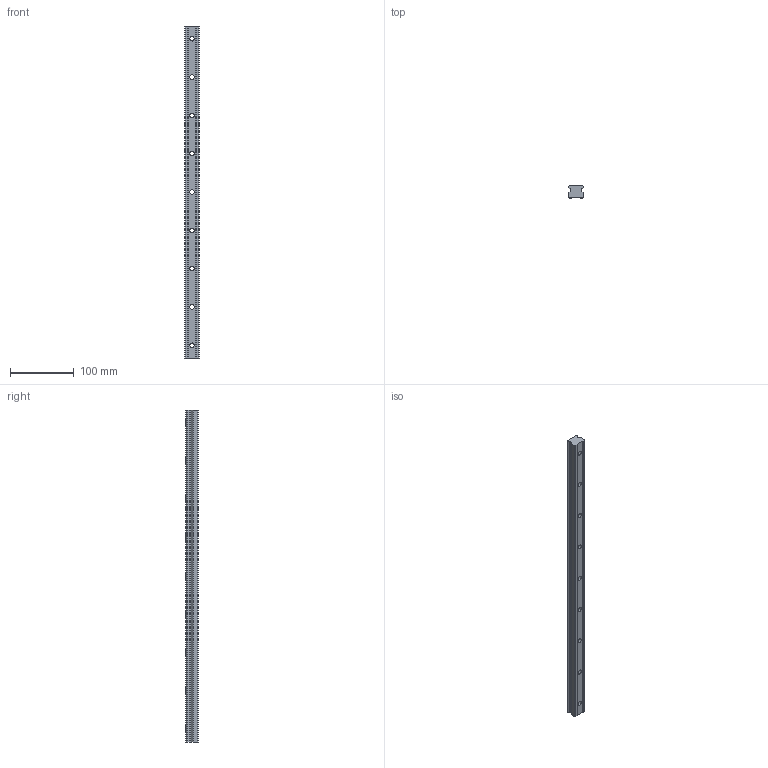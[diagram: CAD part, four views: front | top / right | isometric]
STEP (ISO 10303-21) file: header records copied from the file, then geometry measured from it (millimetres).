
FILE_DESCRIPTION (( 'STEP AP203' ), '1' );
FILE_NAME ('L1016.BL25-0520.step', '2019-06-12T12:04:57', ( '' ), ( '' ), 'SwSTEP 2.0', 'SolidWorks 2017', '' );
FILE_SCHEMA (( 'CONFIG_CONTROL_DESIGN' ));
Length unit declared in the file: millimetre
Products named in the file (1): L1016.BL25-0520
Bounding box: 23 x 19.2 x 520 mm (x, y, z)
Volume: 191297.4 mm3; surface area: 49959.6 mm2
Topology: 1 solids, 1 shells, 71 faces, 180 edges, 120 vertices
Faces by surface type: cylinder 40, plane 31
Entity records: 2287 total; most frequent: DIRECTION 404, CARTESIAN_POINT 372, ORIENTED_EDGE 360, EDGE_CURVE 180, AXIS2_PLACEMENT_3D 152, VERTEX_POINT 120, VECTOR 100, LINE 100
